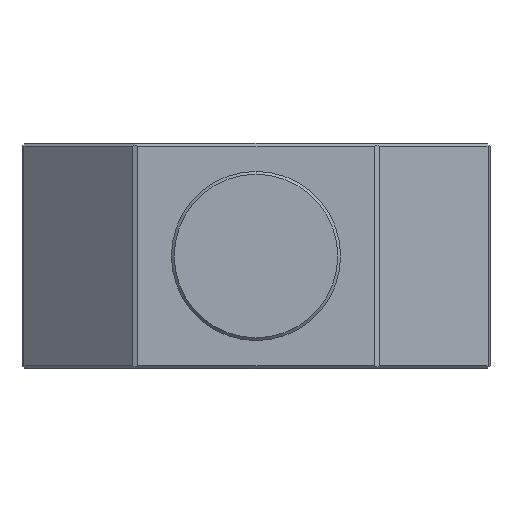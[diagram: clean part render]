
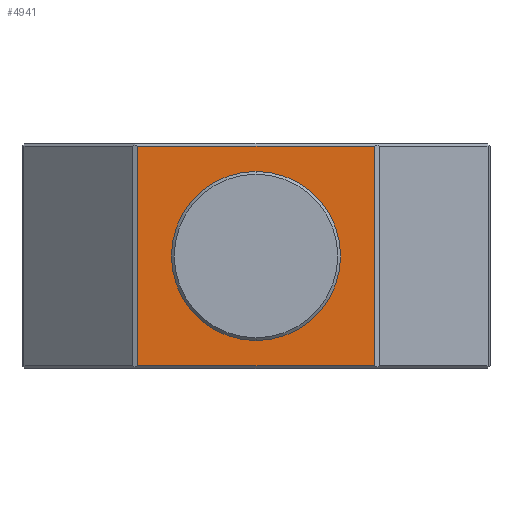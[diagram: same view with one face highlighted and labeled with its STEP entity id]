
A CAD part, front view. The second image highlights one B-rep face of the part: STEP entity #4941.
In plain terms, the highlighted planar face has unit normal (0, -1, 0).
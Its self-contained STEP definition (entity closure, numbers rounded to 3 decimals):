
#338 = CARTESIAN_POINT ( 'NONE',  ( -21.5, -41., 19.5 ) ) ;
#473 = AXIS2_PLACEMENT_3D ( 'NONE', #8240, #1942, #6218 ) ;
#992 = VECTOR ( 'NONE', #2452, 1000. ) ;
#1201 = FACE_BOUND ( 'NONE', #2614, .T. ) ;
#1214 = CIRCLE ( 'NONE', #473, 15. ) ;
#1235 = CARTESIAN_POINT ( 'NONE',  ( -21., -41., -19.5 ) ) ;
#1397 = CARTESIAN_POINT ( 'NONE',  ( 0., -41., 15. ) ) ;
#1635 = DIRECTION ( 'NONE',  ( 1., 0., 0. ) ) ;
#1902 = CARTESIAN_POINT ( 'NONE',  ( -21.5, -41., -20. ) ) ;
#1942 = DIRECTION ( 'NONE',  ( 0., -1., 0. ) ) ;
#1961 = EDGE_CURVE ( 'NONE', #6322, #4564, #1214, .T. ) ;
#2043 = ORIENTED_EDGE ( 'NONE', *, *, #5194, .T. ) ;
#2232 = CARTESIAN_POINT ( 'NONE',  ( 21., -41., 19.5 ) ) ;
#2251 = VERTEX_POINT ( 'NONE', #1235 ) ;
#2452 = DIRECTION ( 'NONE',  ( 0., 0., 1. ) ) ;
#2614 = EDGE_LOOP ( 'NONE', ( #4212, #7366 ) ) ;
#2793 = ORIENTED_EDGE ( 'NONE', *, *, #3156, .T. ) ;
#2961 = CARTESIAN_POINT ( 'NONE',  ( -21., -41., -20. ) ) ;
#3009 = CIRCLE ( 'NONE', #4336, 15. ) ;
#3156 = EDGE_CURVE ( 'NONE', #4279, #3417, #7338, .T. ) ;
#3322 = PLANE ( 'NONE',  #6281 ) ;
#3415 = DIRECTION ( 'NONE',  ( 1., 0., 0. ) ) ;
#3417 = VERTEX_POINT ( 'NONE', #7913 ) ;
#3610 = VECTOR ( 'NONE', #5908, 1000. ) ;
#3727 = ORIENTED_EDGE ( 'NONE', *, *, #6385, .T. ) ;
#4212 = ORIENTED_EDGE ( 'NONE', *, *, #1961, .F. ) ;
#4279 = VERTEX_POINT ( 'NONE', #2232 ) ;
#4336 = AXIS2_PLACEMENT_3D ( 'NONE', #7424, #5442, #3415 ) ;
#4564 = VERTEX_POINT ( 'NONE', #1397 ) ;
#4898 = DIRECTION ( 'NONE',  ( 0., 0., -1. ) ) ;
#4941 = ADVANCED_FACE ( 'NONE', ( #1201, #7416 ), #3322, .T. ) ;
#5090 = VERTEX_POINT ( 'NONE', #8493 ) ;
#5194 = EDGE_CURVE ( 'NONE', #5090, #4279, #5267, .T. ) ;
#5267 = LINE ( 'NONE', #5903, #992 ) ;
#5363 = VECTOR ( 'NONE', #4898, 1000. ) ;
#5442 = DIRECTION ( 'NONE',  ( 0., -1., 0. ) ) ;
#5630 = LINE ( 'NONE', #2961, #5363 ) ;
#5903 = CARTESIAN_POINT ( 'NONE',  ( 21., -41., -20. ) ) ;
#5908 = DIRECTION ( 'NONE',  ( -1., 0., 0. ) ) ;
#6218 = DIRECTION ( 'NONE',  ( 1., 0., 0. ) ) ;
#6281 = AXIS2_PLACEMENT_3D ( 'NONE', #1902, #8104, #7329 ) ;
#6322 = VERTEX_POINT ( 'NONE', #7750 ) ;
#6385 = EDGE_CURVE ( 'NONE', #3417, #2251, #5630, .T. ) ;
#6468 = LINE ( 'NONE', #6560, #8780 ) ;
#6560 = CARTESIAN_POINT ( 'NONE',  ( 21.5, -41., -19.5 ) ) ;
#6602 = EDGE_CURVE ( 'NONE', #4564, #6322, #3009, .T. ) ;
#6944 = EDGE_LOOP ( 'NONE', ( #2793, #3727, #7178, #2043 ) ) ;
#7178 = ORIENTED_EDGE ( 'NONE', *, *, #7191, .T. ) ;
#7191 = EDGE_CURVE ( 'NONE', #2251, #5090, #6468, .T. ) ;
#7329 = DIRECTION ( 'NONE',  ( 1., 0., 0. ) ) ;
#7338 = LINE ( 'NONE', #338, #3610 ) ;
#7366 = ORIENTED_EDGE ( 'NONE', *, *, #6602, .F. ) ;
#7416 = FACE_OUTER_BOUND ( 'NONE', #6944, .T. ) ;
#7424 = CARTESIAN_POINT ( 'NONE',  ( 0., -41., 0. ) ) ;
#7750 = CARTESIAN_POINT ( 'NONE',  ( 0., -41., -15. ) ) ;
#7913 = CARTESIAN_POINT ( 'NONE',  ( -21., -41., 19.5 ) ) ;
#8104 = DIRECTION ( 'NONE',  ( 0., -1., 0. ) ) ;
#8240 = CARTESIAN_POINT ( 'NONE',  ( 0., -41., 0. ) ) ;
#8493 = CARTESIAN_POINT ( 'NONE',  ( 21., -41., -19.5 ) ) ;
#8780 = VECTOR ( 'NONE', #1635, 1000. ) ;
